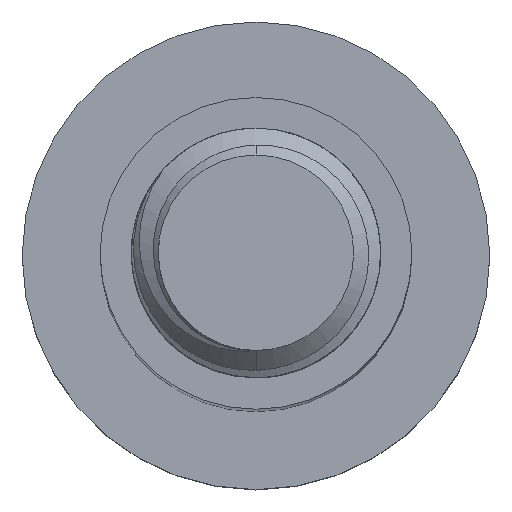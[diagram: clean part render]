
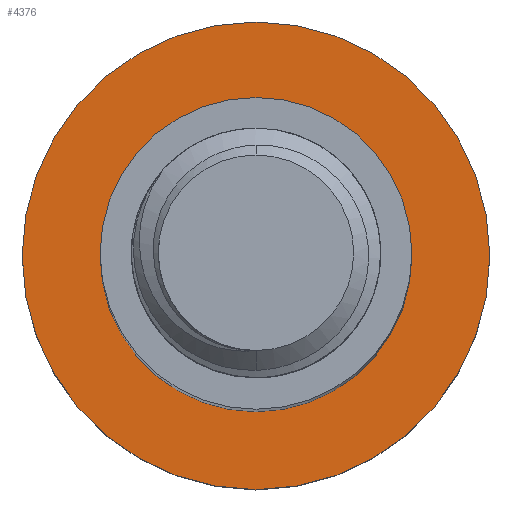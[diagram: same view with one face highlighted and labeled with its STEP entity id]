
A CAD part, top view. The second image highlights one B-rep face of the part: STEP entity #4376.
In plain terms, the highlighted planar face has unit normal (0, 0, 1).
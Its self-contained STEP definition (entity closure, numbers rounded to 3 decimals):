
#18 = VERTEX_POINT ( 'NONE', #2469 ) ;
#267 = ORIENTED_EDGE ( 'NONE', *, *, #2252, .F. ) ;
#524 = DIRECTION ( 'NONE',  ( -1., 0., 0. ) ) ;
#534 = AXIS2_PLACEMENT_3D ( 'NONE', #4298, #3953, #2154 ) ;
#566 = CARTESIAN_POINT ( 'NONE',  ( 0., 0., -90. ) ) ;
#626 = FACE_BOUND ( 'NONE', #3568, .T. ) ;
#1100 = CARTESIAN_POINT ( 'NONE',  ( 15., 0., -90. ) ) ;
#1168 = ORIENTED_EDGE ( 'NONE', *, *, #2751, .F. ) ;
#1435 = AXIS2_PLACEMENT_3D ( 'NONE', #4541, #4166, #4949 ) ;
#1540 = FACE_OUTER_BOUND ( 'NONE', #3756, .T. ) ;
#1628 = AXIS2_PLACEMENT_3D ( 'NONE', #2307, #2827, #524 ) ;
#1684 = ORIENTED_EDGE ( 'NONE', *, *, #3398, .T. ) ;
#1794 = VERTEX_POINT ( 'NONE', #2131 ) ;
#1890 = DIRECTION ( 'NONE',  ( 0., 0., -1. ) ) ;
#1927 = CARTESIAN_POINT ( 'NONE',  ( 10., 0., -90. ) ) ;
#1990 = CIRCLE ( 'NONE', #1435, 15. ) ;
#1995 = AXIS2_PLACEMENT_3D ( 'NONE', #2380, #5479, #4152 ) ;
#1997 = DIRECTION ( 'NONE',  ( -1., 0., 0. ) ) ;
#2131 = CARTESIAN_POINT ( 'NONE',  ( -15., 0., -90. ) ) ;
#2154 = DIRECTION ( 'NONE',  ( -1., 0., 0. ) ) ;
#2252 = EDGE_CURVE ( 'NONE', #4673, #1794, #1990, .T. ) ;
#2307 = CARTESIAN_POINT ( 'NONE',  ( 0., 0., -90. ) ) ;
#2380 = CARTESIAN_POINT ( 'NONE',  ( 0., 0., -90. ) ) ;
#2469 = CARTESIAN_POINT ( 'NONE',  ( -10., 0., -90. ) ) ;
#2612 = VERTEX_POINT ( 'NONE', #1927 ) ;
#2751 = EDGE_CURVE ( 'NONE', #1794, #4673, #4491, .T. ) ;
#2827 = DIRECTION ( 'NONE',  ( 0., 0., -1. ) ) ;
#3296 = CIRCLE ( 'NONE', #4680, 10. ) ;
#3383 = PLANE ( 'NONE',  #1995 ) ;
#3398 = EDGE_CURVE ( 'NONE', #2612, #18, #3296, .T. ) ;
#3568 = EDGE_LOOP ( 'NONE', ( #4161, #1684 ) ) ;
#3756 = EDGE_LOOP ( 'NONE', ( #267, #1168 ) ) ;
#3953 = DIRECTION ( 'NONE',  ( 0., 0., -1. ) ) ;
#4152 = DIRECTION ( 'NONE',  ( -1., 0., 0. ) ) ;
#4161 = ORIENTED_EDGE ( 'NONE', *, *, #5232, .T. ) ;
#4166 = DIRECTION ( 'NONE',  ( 0., 0., -1. ) ) ;
#4298 = CARTESIAN_POINT ( 'NONE',  ( 0., 0., -90. ) ) ;
#4376 = ADVANCED_FACE ( 'NONE', ( #626, #1540 ), #3383, .F. ) ;
#4491 = CIRCLE ( 'NONE', #1628, 15. ) ;
#4541 = CARTESIAN_POINT ( 'NONE',  ( 0., 0., -90. ) ) ;
#4673 = VERTEX_POINT ( 'NONE', #1100 ) ;
#4680 = AXIS2_PLACEMENT_3D ( 'NONE', #566, #1890, #1997 ) ;
#4949 = DIRECTION ( 'NONE',  ( -1., 0., 0. ) ) ;
#5049 = CIRCLE ( 'NONE', #534, 10. ) ;
#5232 = EDGE_CURVE ( 'NONE', #18, #2612, #5049, .T. ) ;
#5479 = DIRECTION ( 'NONE',  ( 0., 0., -1. ) ) ;
